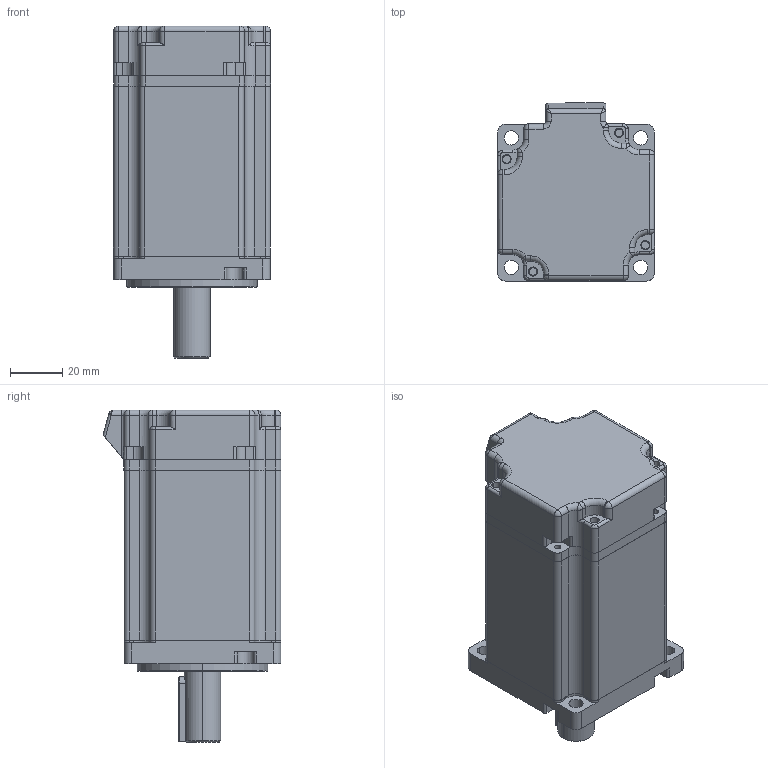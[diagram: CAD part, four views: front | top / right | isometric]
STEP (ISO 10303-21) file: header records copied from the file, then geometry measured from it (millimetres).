
FILE_DESCRIPTION((''),'2;1');
FILE_NAME('60-400W_ASM','2021-11-13T',('Administrator'),(''),'PRO/ENGINEER BY PARAMETRIC TECHNOLOGY CORPORATION, 2010280','PRO/ENGINEER BY PARAMETRIC TECHNOLOGY CORPORATION, 2010280','');
FILE_SCHEMA(('CONFIG_CONTROL_DESIGN'));
Length unit declared in the file: millimetre
Products named in the file (10): ZHOU_2; ZHAUNZI_ASM_3_ASM_ASM; QIANDUANGAI-GM_4; HOUDUANGAI-GM_2; DIANJIJIAN_1; 60-HZ_1; 400W_ASM_4_ASM_ASM; LVKE58_2; 400W_ASM_ASM_ASM; 60-400W_ASM
Assembly tree (9 placements, depth 5):
  60-400W_ASM
    400W_ASM_ASM_ASM
      400W_ASM_4_ASM_ASM
        ZHAUNZI_ASM_3_ASM_ASM
          ZHOU_2
        QIANDUANGAI-GM_4
        HOUDUANGAI-GM_2
        DIANJIJIAN_1
        60-HZ_1
      LVKE58_2
Bounding box: 60.09 x 68.01 x 127 mm (x, y, z)
Volume: 122868.9 mm3; surface area: 69971.9 mm2
Topology: 6 solids, 6 shells, 484 faces, 1255 edges, 802 vertices
Faces by surface type: cylinder 236, plane 157, cone 47, torus 26, sphere 12, bspline 6
Entity records: 15508 total; most frequent: CARTESIAN_POINT 2909, DIRECTION 2832, ORIENTED_EDGE 2486, EDGE_CURVE 1243, AXIS2_PLACEMENT_3D 1112, VERTEX_POINT 802, VECTOR 608, LINE 608
